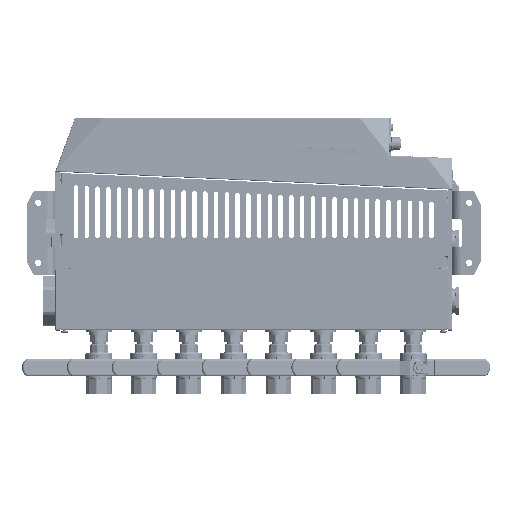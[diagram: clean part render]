
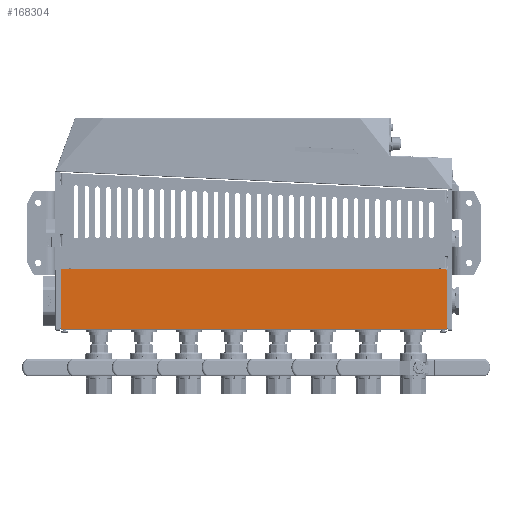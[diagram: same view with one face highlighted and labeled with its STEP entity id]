
A CAD part, left-side view. The second image highlights one B-rep face of the part: STEP entity #168304.
In plain terms, the highlighted planar face has unit normal (-1, 0, 0) as drawn and (0, -1, 0) by its records, which use the part's own axes.
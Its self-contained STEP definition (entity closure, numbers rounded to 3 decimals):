
#1636 = PLANE ( 'NONE',  #308935 ) ;
#1777 = VERTEX_POINT ( 'NONE', #48736 ) ;
#4789 = CARTESIAN_POINT ( 'NONE',  ( 67., -84., -214. ) ) ;
#20845 = EDGE_LOOP ( 'NONE', ( #337044, #173379, #226421, #74148, #224573, #176543 ) ) ;
#35631 = CARTESIAN_POINT ( 'NONE',  ( 68., -84., 214. ) ) ;
#48736 = CARTESIAN_POINT ( 'NONE',  ( 67., -84., 215. ) ) ;
#49901 = DIRECTION ( 'NONE',  ( -1., 0., 0. ) ) ;
#52055 = EDGE_CURVE ( 'NONE', #150265, #181428, #110983, .T. ) ;
#61204 = DIRECTION ( 'NONE',  ( -1., 0., 0. ) ) ;
#71712 = LINE ( 'NONE', #346151, #93905 ) ;
#74148 = ORIENTED_EDGE ( 'NONE', *, *, #163646, .T. ) ;
#79365 = VECTOR ( 'NONE', #314675, 1000. ) ;
#82578 = CARTESIAN_POINT ( 'NONE',  ( 67., -84., 214. ) ) ;
#84171 = EDGE_CURVE ( 'NONE', #115435, #181428, #169454, .T. ) ;
#88002 = CARTESIAN_POINT ( 'NONE',  ( 67., -84., -215. ) ) ;
#93905 = VECTOR ( 'NONE', #296945, 1000. ) ;
#105343 = VECTOR ( 'NONE', #334851, 1000. ) ;
#110983 = CIRCLE ( 'NONE', #139707, 1. ) ;
#112721 = DIRECTION ( 'NONE',  ( -1., 0., 0. ) ) ;
#115435 = VERTEX_POINT ( 'NONE', #215978 ) ;
#121464 = CARTESIAN_POINT ( 'NONE',  ( 68., -84., 215. ) ) ;
#131582 = VERTEX_POINT ( 'NONE', #343997 ) ;
#139707 = AXIS2_PLACEMENT_3D ( 'NONE', #4789, #339240, #61204 ) ;
#143015 = CARTESIAN_POINT ( 'NONE',  ( 68., -84., -214. ) ) ;
#150265 = VERTEX_POINT ( 'NONE', #143015 ) ;
#163536 = CARTESIAN_POINT ( 'NONE',  ( 0., -84., 215. ) ) ;
#163646 = EDGE_CURVE ( 'NONE', #131582, #115435, #225778, .T. ) ;
#164352 = DIRECTION ( 'NONE',  ( 0., 1., 0. ) ) ;
#167630 = CARTESIAN_POINT ( 'NONE',  ( 0., -84., -215. ) ) ;
#168304 = ADVANCED_FACE ( 'NONE', ( #328991 ), #1636, .T. ) ;
#169454 = LINE ( 'NONE', #167630, #105343 ) ;
#173379 = ORIENTED_EDGE ( 'NONE', *, *, #296360, .F. ) ;
#176543 = ORIENTED_EDGE ( 'NONE', *, *, #52055, .F. ) ;
#181428 = VERTEX_POINT ( 'NONE', #88002 ) ;
#184903 = VERTEX_POINT ( 'NONE', #35631 ) ;
#191013 = EDGE_CURVE ( 'NONE', #131582, #1777, #71712, .T. ) ;
#197161 = CIRCLE ( 'NONE', #214578, 1. ) ;
#200214 = CARTESIAN_POINT ( 'NONE',  ( 2., -84., 215. ) ) ;
#214578 = AXIS2_PLACEMENT_3D ( 'NONE', #82578, #164352, #49901 ) ;
#215978 = CARTESIAN_POINT ( 'NONE',  ( 2., -84., -215. ) ) ;
#224573 = ORIENTED_EDGE ( 'NONE', *, *, #84171, .T. ) ;
#225778 = LINE ( 'NONE', #200214, #79365 ) ;
#226421 = ORIENTED_EDGE ( 'NONE', *, *, #191013, .F. ) ;
#232826 = VECTOR ( 'NONE', #254161, 1000. ) ;
#254161 = DIRECTION ( 'NONE',  ( 0., 0., -1. ) ) ;
#259456 = LINE ( 'NONE', #121464, #232826 ) ;
#276422 = EDGE_CURVE ( 'NONE', #184903, #150265, #259456, .T. ) ;
#296360 = EDGE_CURVE ( 'NONE', #1777, #184903, #197161, .T. ) ;
#296945 = DIRECTION ( 'NONE',  ( 1., 0., 0. ) ) ;
#308935 = AXIS2_PLACEMENT_3D ( 'NONE', #163536, #334326, #112721 ) ;
#314675 = DIRECTION ( 'NONE',  ( 0., 0., -1. ) ) ;
#328991 = FACE_OUTER_BOUND ( 'NONE', #20845, .T. ) ;
#334326 = DIRECTION ( 'NONE',  ( 0., -1., 0. ) ) ;
#334851 = DIRECTION ( 'NONE',  ( 1., 0., 0. ) ) ;
#337044 = ORIENTED_EDGE ( 'NONE', *, *, #276422, .F. ) ;
#339240 = DIRECTION ( 'NONE',  ( 0., 1., 0. ) ) ;
#343997 = CARTESIAN_POINT ( 'NONE',  ( 2., -84., 215. ) ) ;
#346151 = CARTESIAN_POINT ( 'NONE',  ( 0., -84., 215. ) ) ;
